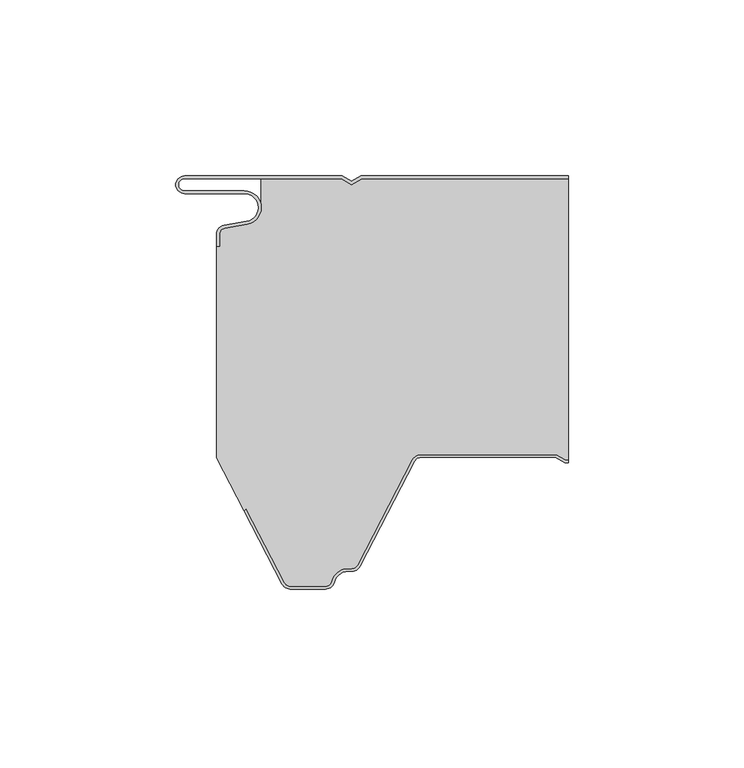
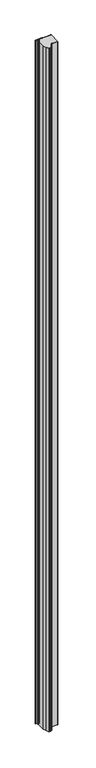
"""IFC4 building model written with IfcOpenShell, lengths in millimetres: plate geometry, ACH_Panel cubierta 5 grecas-PUR-PIR_P5G : ACH_Panel cubierta 5 grecas-PIR-P5G_80mm."""

from ifc_helpers import new_model, si_unit, frame, origin, place, context, project, spatial, polyline, circle_curve, source, transform, mapped, element, save
from ifc_brep_helpers import plane_surface, cylinder_surface, revolved_surface, advanced_brep


def plate_074d3782(model_context):
    return source(origin(), model_context, "Body", "AdvancedBrep", [
        advanced_brep(
        [(-50.0, -16.636349, 5000.0), (-50.0, -20.0, 5000.0), (-49.2, -20.0, 5000.0), (-49.2, -16.636349, 5000.0), (-47.7125667, -14.863695, 5000.0), (-41.266489, -13.7270771, 5000.0), (-42.1, -4.2, 5000.0), (-59.1, -4.2, 5000.0), (-59.1, -0.8, 5000.0), (-14.5143588, -0.8, 5000.0), (-11.6, -2.4826072, 5000.0), (-8.6856412, -0.8, 5000.0), (50.0, -0.8, 5000.0), (50.0, 0.0, 5000.0), (-8.9000007, 0.0, 5000.0), (-11.6, -1.5588466, 5000.0), (-14.2999993, 0.0, 5000.0), (-59.1, 0.0, 5000.0), (-59.1, -5.0, 5000.0), (-42.1, -5.0, 5000.0), (-41.4054075, -12.939231, 5000.0), (-47.851485, -14.075848, 5000.0), (-50.0, -16.636349, 0.0), (-47.8514853, -14.0758488, 0.0), (-41.4054075, -12.9392309, 0.0), (-42.1, -5.0, 0.0), (-59.1, -5.0, 0.0), (-59.1, 0.0, 0.0), (-14.2999993, 0.0, 0.0), (-11.6, -1.5588466, 0.0), (-8.9000007, 0.0, 0.0), (50.0, 0.0, 0.0), (50.0, -0.8, 0.0), (-8.6856412, -0.8, 0.0), (-11.6, -2.4826072, 0.0), (-14.5143588, -0.8, 0.0), (-59.1, -0.8, 0.0), (-59.1, -4.2, 0.0), (-42.1, -4.2, 0.0), (-41.266489, -13.7270773, 0.0), (-47.7125665, -14.8636942, 0.0), (-49.2, -16.636349, 0.0), (-49.2, -20.0, 0.0), (-50.0, -20.0, 0.0)],
        [
            (0, 1),
            (1, 2),
            (2, 3),
            (3, 4, circle_curve(frame((-47.4, -16.636349, 5000.0), z_axis=(0.0, 0.0, -1.0), x_axis=(1.0, 0.0, 0.0)), 1.8)),
            (4, 5),
            (5, 6, circle_curve(frame((-42.1, -9.0, 5000.0), z_axis=(0.0, 0.0, 1.0), x_axis=(1.0, 0.0, 0.0)), 4.8)),
            (6, 7),
            (7, 8, circle_curve(frame((-59.1, -2.5, 5000.0), z_axis=(0.0, 0.0, -1.0), x_axis=(1.0, 0.0, 0.0)), 1.7)),
            (8, 9),
            (9, 10),
            (10, 11),
            (11, 12),
            (12, 13),
            (13, 14),
            (14, 15),
            (15, 16),
            (16, 17),
            (17, 18, circle_curve(frame((-59.1, -2.5, 5000.0), z_axis=(0.0, 0.0, 1.0), x_axis=(1.0, 0.0, 0.0)), 2.5)),
            (18, 19),
            (19, 20, circle_curve(frame((-42.1, -9.0, 5000.0), z_axis=(0.0, 0.0, -1.0), x_axis=(1.0, 0.0, 0.0)), 4.0)),
            (20, 21),
            (21, 0, circle_curve(frame((-47.4, -16.636349, 5000.0), z_axis=(0.0, 0.0, 1.0), x_axis=(1.0, 0.0, 0.0)), 2.6)),
            (22, 23, circle_curve(frame((-47.4, -16.636349, 0.0), z_axis=(0.0, 0.0, -1.0), x_axis=(1.0, 0.0, 0.0)), 2.6)),
            (23, 24),
            (24, 25, circle_curve(frame((-42.1, -9.0, 0.0), z_axis=(0.0, 0.0, 1.0), x_axis=(1.0, 0.0, 0.0)), 4.0)),
            (25, 26),
            (26, 27, circle_curve(frame((-59.1, -2.5, 0.0), z_axis=(0.0, 0.0, -1.0), x_axis=(1.0, 0.0, 0.0)), 2.5)),
            (27, 28),
            (28, 29),
            (29, 30),
            (30, 31),
            (31, 32),
            (32, 33),
            (33, 34),
            (34, 35),
            (35, 36),
            (36, 37, circle_curve(frame((-59.1, -2.5, 0.0), z_axis=(0.0, 0.0, 1.0), x_axis=(1.0, 0.0, 0.0)), 1.7)),
            (37, 38),
            (38, 39, circle_curve(frame((-42.1, -9.0, 0.0), z_axis=(0.0, 0.0, -1.0), x_axis=(1.0, 0.0, 0.0)), 4.8)),
            (39, 40),
            (40, 41, circle_curve(frame((-47.4, -16.636349, 0.0), z_axis=(0.0, 0.0, 1.0), x_axis=(1.0, 0.0, 0.0)), 1.8)),
            (41, 42),
            (42, 43),
            (43, 22),
            (0, 22),
            (43, 1),
            (42, 2),
            (41, 3),
            (40, 4),
            (39, 5),
            (38, 6),
            (37, 7),
            (36, 8),
            (35, 9),
            (34, 10),
            (33, 11),
            (32, 12),
            (30, 14),
            (13, 31),
            (29, 15),
            (28, 16),
            (27, 17),
            (26, 18),
            (25, 19),
            (24, 20),
            (23, 21),
        ],
        [
            plane_surface(frame((-50.0, 0.0, 5000.0), z_axis=(0.0, 0.0, 1.0), x_axis=(0.0, 1.0, 0.0))),
            plane_surface(frame((-50.0, 0.0, 0.0), z_axis=(0.0, 0.0, -1.0), x_axis=(0.0, 1.0, 0.0))),
            plane_surface(frame((-50.0, -16.636349, 5000.0), z_axis=(-1.0, 0.0, 0.0), x_axis=(0.0, 0.0, -1.0))),
            plane_surface(frame((-50.0, -20.0, 5000.0), z_axis=(0.0, -1.0, 0.0), x_axis=(0.0, 0.0, -1.0))),
            plane_surface(frame((-49.2, -20.0, 5000.0), z_axis=(1.0, 0.0, 0.0), x_axis=(0.0, 0.0, -1.0))),
            revolved_surface(polyline([(-45.6, -16.636349, 0.0), (-45.6, -16.636349, 5000.0)]), (-47.4, -16.636349, 5000.0), (0.0, 0.0, -1.0)),
            plane_surface(frame((-47.7125665, -14.8636942, 5000.0), z_axis=(0.17364813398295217, -0.9848077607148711, 0.0), x_axis=(0.0, 0.0, -1.0))),
            cylinder_surface(frame((-42.1, -9.0, 5000.0), z_axis=(0.0, 0.0, 1.0), x_axis=(1.0, 0.0, 0.0)), 4.8),
            plane_surface(frame((-42.1, -4.2, 5000.0), z_axis=(0.0, 1.0, 0.0), x_axis=(0.0, 0.0, -1.0))),
            revolved_surface(polyline([(-57.4, -2.5, 0.0), (-57.4, -2.5, 5000.0)]), (-59.1, -2.5, 5000.0), (0.0, 0.0, -1.0)),
            plane_surface(frame((-59.1, -0.8, 5000.0), z_axis=(0.0, -1.0, 0.0), x_axis=(0.0, 0.0, -1.0))),
            plane_surface(frame((-14.5143588, -0.8, 5000.0), z_axis=(-0.5000003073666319, -0.8660252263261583, 0.0), x_axis=(0.0, 0.0, -1.0))),
            plane_surface(frame((-11.6, -2.4826072, 5000.0), z_axis=(0.5000003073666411, -0.866025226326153, 0.0), x_axis=(0.0, 0.0, -1.0))),
            plane_surface(frame((-8.6856412, -0.8, 5000.0), z_axis=(0.0, -1.0, 0.0), x_axis=(0.0, 0.0, -1.0))),
            plane_surface(frame((85.7000007, 0.0, 5000.0), z_axis=(0.0, 1.0, 0.0), x_axis=(0.0, 0.0, -1.0))),
            plane_surface(frame((-8.9000007, 0.0, 5000.0), z_axis=(-0.5000003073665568, 0.8660252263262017, 0.0), x_axis=(0.0, 0.0, -1.0))),
            plane_surface(frame((-11.6, -1.5588466, 5000.0), z_axis=(0.5000003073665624, 0.8660252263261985, 0.0), x_axis=(0.0, 0.0, -1.0))),
            plane_surface(frame((-14.2999993, 0.0, 5000.0), z_axis=(0.0, 1.0, 0.0), x_axis=(0.0, 0.0, -1.0))),
            cylinder_surface(frame((-59.1, -2.5, 5000.0), z_axis=(0.0, 0.0, 1.0), x_axis=(1.0, 0.0, 0.0)), 2.5),
            plane_surface(frame((-59.1, -5.0, 5000.0), z_axis=(0.0, -1.0, 0.0), x_axis=(0.0, 0.0, -1.0))),
            revolved_surface(polyline([(-38.1, -9.0, 0.0), (-38.1, -9.0, 5000.0)]), (-42.1, -9.0, 5000.0), (0.0, 0.0, -1.0)),
            plane_surface(frame((-41.4054075, -12.9392309, 5000.0), z_axis=(-0.17364813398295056, 0.9848077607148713, 0.0), x_axis=(0.0, 0.0, -1.0))),
            cylinder_surface(frame((-47.4, -16.636349, 5000.0), z_axis=(0.0, 0.0, 1.0), x_axis=(1.0, 0.0, 0.0)), 2.6),
            plane_surface(frame((50.0, 0.0, 5000.0), z_axis=(1.0, 0.0, 0.0), x_axis=(0.0, 0.0, -1.0))),
        ],
        [
            (0, [[1, 2, 3, 4, 5, 6, 7, 8, 9, 10, 11, 12, 13, 14, 15, 16, 17, 18, 19, 20, 21, 22]]),
            (1, [[23, 24, 25, 26, 27, 28, 29, 30, 31, 32, 33, 34, 35, 36, 37, 38, 39, 40, 41, 42, 43, 44]]),
            (2, [[-1, 45, -44, 46]]),
            (3, [[-2, -46, -43, 47]]),
            (4, [[-3, -47, -42, 48]]),
            (5, [[-4, -48, -41, 49]]),
            (6, [[-5, -49, -40, 50]]),
            (7, [[-6, -50, -39, 51]]),
            (8, [[-7, -51, -38, 52]]),
            (9, [[-8, -52, -37, 53]]),
            (10, [[-9, -53, -36, 54]]),
            (11, [[-10, -54, -35, 55]]),
            (12, [[-11, -55, -34, 56]]),
            (13, [[-56, -33, 57, -12]]),
            (14, [[58, -14, 59, -31]]),
            (15, [[-15, -58, -30, 60]]),
            (16, [[-16, -60, -29, 61]]),
            (17, [[-17, -61, -28, 62]]),
            (18, [[-18, -62, -27, 63]]),
            (19, [[-19, -63, -26, 64]]),
            (20, [[-20, -64, -25, 65]]),
            (21, [[-21, -65, -24, 66]]),
            (22, [[-22, -66, -23, -45]]),
            (23, [[-13, -57, -32, -59]]),
        ],
    ),
        advanced_brep(
        [(-30.6207387, -115.6314818, 0.0), (-41.5569015, -94.6340495, 0.0), (-42.1499858, -95.2271753, 0.0), (-50.0, -80.1551481, 0.0), (-50.0, -20.0, 0.0), (-49.2, -20.0, 0.0), (-49.2, -16.636349, 0.0), (-47.7125653, -14.8636948, 0.0), (-41.2664891, -13.7270773, 0.0), (-37.3182654, -8.5816526, 0.0), (-37.3182654, -0.8, 0.0), (-14.5143588, -0.8, 0.0), (-11.6, -2.4826072, 0.0), (-8.6856412, -0.8, 0.0), (50.0, -0.8, 0.0), (50.0, -80.7, 0.0), (49.2107961, -80.7, 0.0), (46.6127185, -79.2, 0.0), (8.090871, -79.2, 0.0), (5.6075115, -80.7065836, 0.0), (-9.9783733, -110.6314825, 0.0), (-11.574819, -111.6, 0.0), (-12.6272901, -111.6, 0.0), (-17.2841077, -115.2363636, 0.0), (-19.030414, -116.5999997, 0.0), (-29.024293, -116.5999997, 0.0), (-30.6207383, -115.6314813, 5000.0), (-29.024293, -116.5999997, 5000.0), (-19.030414, -116.5999997, 5000.0), (-17.2841077, -115.2363636, 5000.0), (-12.6272901, -111.6, 5000.0), (-11.574819, -111.6, 5000.0), (-9.9783737, -110.631482, 5000.0), (5.6075107, -80.7065835, 5000.0), (8.090871, -79.2, 5000.0), (46.6127185, -79.2, 5000.0), (49.2107961, -80.7, 5000.0), (50.0, -80.7, 5000.0), (50.0, -0.8, 5000.0), (-8.6856412, -0.8, 5000.0), (-11.6, -2.4826072, 5000.0), (-14.5143588, -0.8, 5000.0), (-37.3182654, -0.8, 5000.0), (-37.3182654, -8.5816526, 5000.0), (-41.2664891, -13.7270773, 5000.0), (-47.7125651, -14.863694, 5000.0), (-49.2, -16.636349, 5000.0), (-49.2, -20.0, 5000.0), (-50.0, -20.0, 5000.0), (-50.0, -80.1551481, 5000.0), (-42.1499858, -95.2271753, 5000.0), (-41.5569015, -94.6340495, 5000.0)],
        [
            (0, 1),
            (1, 2),
            (2, 3),
            (3, 4),
            (4, 5),
            (5, 6),
            (6, 7, circle_curve(frame((-47.4, -16.636349, 0.0), z_axis=(0.0, 0.0, -1.0), x_axis=(-1.0, 0.0, 0.0)), 1.8)),
            (7, 8),
            (8, 9, circle_curve(frame((-42.1, -9.0, 0.0), z_axis=(0.0, 0.0, 1.0), x_axis=(-1.0, 0.0, 0.0)), 4.8)),
            (9, 10),
            (10, 11),
            (11, 12),
            (12, 13),
            (13, 14),
            (14, 15),
            (15, 16),
            (16, 17),
            (17, 18),
            (18, 19, circle_curve(frame((8.090871, -82.0, 0.0), z_axis=(0.0, 0.0, 1.0), x_axis=(-1.0, 0.0, 0.0)), 2.8)),
            (19, 20),
            (20, 21, circle_curve(frame((-11.574819, -109.8, 0.0), z_axis=(0.0, 0.0, -1.0), x_axis=(-1.0, 0.0, 0.0)), 1.8)),
            (21, 22),
            (22, 23, circle_curve(frame((-12.6272901, -116.4, 0.0), z_axis=(0.0, 0.0, 1.0), x_axis=(-1.0, 0.0, 0.0)), 4.8)),
            (23, 24, circle_curve(frame((-19.030414, -114.8, 0.0), z_axis=(0.0, 0.0, -1.0), x_axis=(-1.0, 0.0, 0.0)), 1.7999997)),
            (24, 25),
            (25, 0, circle_curve(frame((-29.024293, -114.8, 0.0), z_axis=(0.0, 0.0, -1.0), x_axis=(-1.0, 0.0, 0.0)), 1.7999997)),
            (26, 27, circle_curve(frame((-29.024293, -114.8, 5000.0), z_axis=(0.0, 0.0, 1.0), x_axis=(-1.0, 0.0, 0.0)), 1.7999997)),
            (27, 28),
            (28, 29, circle_curve(frame((-19.030414, -114.8, 5000.0), z_axis=(0.0, 0.0, 1.0), x_axis=(-1.0, 0.0, 0.0)), 1.7999997)),
            (29, 30, circle_curve(frame((-12.6272901, -116.4, 5000.0), z_axis=(0.0, 0.0, -1.0), x_axis=(-1.0, 0.0, 0.0)), 4.8)),
            (30, 31),
            (31, 32, circle_curve(frame((-11.574819, -109.8, 5000.0), z_axis=(0.0, 0.0, 1.0), x_axis=(-1.0, 0.0, 0.0)), 1.8)),
            (32, 33),
            (33, 34, circle_curve(frame((8.090871, -82.0, 5000.0), z_axis=(0.0, 0.0, -1.0), x_axis=(-1.0, 0.0, 0.0)), 2.8)),
            (34, 35),
            (35, 36),
            (36, 37),
            (37, 38),
            (38, 39),
            (39, 40),
            (40, 41),
            (41, 42),
            (42, 43),
            (43, 44, circle_curve(frame((-42.1, -9.0, 5000.0), z_axis=(0.0, 0.0, -1.0), x_axis=(-1.0, 0.0, 0.0)), 4.8)),
            (44, 45),
            (45, 46, circle_curve(frame((-47.4, -16.636349, 5000.0), z_axis=(0.0, 0.0, 1.0), x_axis=(-1.0, 0.0, 0.0)), 1.8)),
            (46, 47),
            (47, 48),
            (48, 49),
            (49, 50),
            (50, 51),
            (51, 26),
            (0, 26),
            (51, 1),
            (50, 2),
            (49, 3),
            (48, 4),
            (47, 5),
            (46, 6),
            (45, 7),
            (44, 8),
            (43, 9),
            (42, 10),
            (41, 11),
            (40, 12),
            (39, 13),
            (38, 14),
            (36, 16),
            (15, 37),
            (35, 17),
            (34, 18),
            (33, 19),
            (32, 20),
            (31, 21),
            (30, 22),
            (29, 23),
            (28, 24),
            (27, 25),
        ],
        [
            plane_surface(frame((-50.0, 0.0, 0.0), z_axis=(0.0, 0.0, -1.0), x_axis=(0.0, 1.0, 0.0))),
            plane_surface(frame((-50.0, 0.0, 5000.0), z_axis=(0.0, 0.0, 1.0), x_axis=(0.0, 1.0, 0.0))),
            plane_surface(frame((-30.6207387, -115.6314818, 0.0), z_axis=(-0.8869140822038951, -0.4619344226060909, 0.0), x_axis=(0.0, 0.0, 1.0))),
            plane_surface(frame((-41.5569015, -94.6340495, 0.0), z_axis=(0.7071314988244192, -0.7070820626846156, 0.0), x_axis=(0.0, 0.0, 1.0))),
            plane_surface(frame((-42.1499858, -95.2271753, 0.0), z_axis=(-0.8869140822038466, -0.46193442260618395, 0.0), x_axis=(0.0, 0.0, 1.0))),
            plane_surface(frame((-50.0, -80.1551481, 0.0), z_axis=(-1.0, 0.0, 0.0), x_axis=(0.0, 0.0, 1.0))),
            plane_surface(frame((-50.0, -20.0, 0.0), z_axis=(0.0, 1.0, 0.0), x_axis=(0.0, 0.0, 1.0))),
            plane_surface(frame((-49.2, -20.0, 0.0), z_axis=(-1.0, 0.0, 0.0), x_axis=(0.0, 0.0, 1.0))),
            cylinder_surface(frame((-47.4, -16.636349, 0.0), z_axis=(0.0, 0.0, -1.0), x_axis=(-1.0, 0.0, 0.0)), 1.8),
            plane_surface(frame((-47.7125651, -14.863694, 0.0), z_axis=(-0.17364811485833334, 0.9848077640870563, 0.0), x_axis=(0.0, 0.0, 1.0))),
            revolved_surface(polyline([(-46.9, -9.0, 5000.0), (-46.9, -9.0, 0.0)]), (-42.1, -9.0, 0.0), (0.0, 0.0, 1.0)),
            plane_surface(frame((-37.3182654, -8.5816526, 0.0), z_axis=(-1.0, 0.0, 0.0), x_axis=(0.0, 0.0, 1.0))),
            plane_surface(frame((-37.3182654, -0.8, 0.0), z_axis=(0.0, 1.0, 0.0), x_axis=(0.0, 0.0, 1.0))),
            plane_surface(frame((-14.5143588, -0.8, 0.0), z_axis=(0.500000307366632, 0.8660252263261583, 0.0), x_axis=(0.0, 0.0, 1.0))),
            plane_surface(frame((-11.6, -2.4826072, 0.0), z_axis=(-0.500000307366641, 0.8660252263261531, 0.0), x_axis=(0.0, 0.0, 1.0))),
            plane_surface(frame((-8.6856412, -0.8, 0.0), z_axis=(0.0, 1.0, 0.0), x_axis=(0.0, 0.0, 1.0))),
            plane_surface(frame((81.5859248, -80.7, 0.0), z_axis=(0.0, -1.0, 0.0), x_axis=(0.0, 0.0, 1.0))),
            plane_surface(frame((49.2107961, -80.7, 0.0), z_axis=(-0.49999979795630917, -0.8660255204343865, 0.0), x_axis=(0.0, 0.0, 1.0))),
            plane_surface(frame((46.6127185, -79.2, 0.0), z_axis=(0.0, -1.0, 0.0), x_axis=(0.0, 0.0, 1.0))),
            revolved_surface(polyline([(5.290871, -82.0, 5000.0), (5.290871, -82.0, 0.0)]), (8.090871, -82.0, 0.0), (0.0, 0.0, 1.0)),
            plane_surface(frame((5.6075107, -80.7065835, 0.0), z_axis=(0.8869140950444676, -0.46193439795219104, 0.0), x_axis=(0.0, 0.0, 1.0))),
            cylinder_surface(frame((-11.574819, -109.8, 0.0), z_axis=(0.0, 0.0, -1.0), x_axis=(-1.0, 0.0, 0.0)), 1.8),
            plane_surface(frame((-11.574819, -111.6, 0.0), z_axis=(0.0, -1.0, 0.0), x_axis=(0.0, 0.0, 1.0))),
            revolved_surface(polyline([(-17.4272901, -116.4, 5000.0), (-17.4272901, -116.4, 0.0)]), (-12.6272901, -116.4, 0.0), (0.0, 0.0, 1.0)),
            cylinder_surface(frame((-19.030414, -114.8, 0.0), z_axis=(0.0, 0.0, -1.0), x_axis=(-1.0, 0.0, 0.0)), 1.7999997),
            plane_surface(frame((-19.030414, -116.5999997, 0.0), z_axis=(0.0, -1.0, 0.0), x_axis=(0.0, 0.0, 1.0))),
            cylinder_surface(frame((-29.024293, -114.8, 0.0), z_axis=(0.0, 0.0, -1.0), x_axis=(-1.0, 0.0, 0.0)), 1.7999997),
            plane_surface(frame((50.0, 0.0, 5000.0), z_axis=(1.0, 0.0, 0.0), x_axis=(0.0, 0.0, -1.0))),
        ],
        [
            (0, [[1, 2, 3, 4, 5, 6, 7, 8, 9, 10, 11, 12, 13, 14, 15, 16, 17, 18, 19, 20, 21, 22, 23, 24, 25, 26]]),
            (1, [[27, 28, 29, 30, 31, 32, 33, 34, 35, 36, 37, 38, 39, 40, 41, 42, 43, 44, 45, 46, 47, 48, 49, 50, 51, 52]]),
            (2, [[-1, 53, -52, 54]]),
            (3, [[-2, -54, -51, 55]]),
            (4, [[-3, -55, -50, 56]]),
            (5, [[-4, -56, -49, 57]]),
            (6, [[-5, -57, -48, 58]]),
            (7, [[-6, -58, -47, 59]]),
            (8, [[-7, -59, -46, 60]]),
            (9, [[-8, -60, -45, 61]]),
            (10, [[-9, -61, -44, 62]]),
            (11, [[-10, -62, -43, 63]]),
            (12, [[-11, -63, -42, 64]]),
            (13, [[-12, -64, -41, 65]]),
            (14, [[-13, -65, -40, 66]]),
            (15, [[-66, -39, 67, -14]]),
            (16, [[68, -16, 69, -37]]),
            (17, [[-17, -68, -36, 70]]),
            (18, [[-18, -70, -35, 71]]),
            (19, [[-19, -71, -34, 72]]),
            (20, [[-20, -72, -33, 73]]),
            (21, [[-21, -73, -32, 74]]),
            (22, [[-22, -74, -31, 75]]),
            (23, [[-23, -75, -30, 76]]),
            (24, [[-24, -76, -29, 77]]),
            (25, [[-25, -77, -28, 78]]),
            (26, [[-26, -78, -27, -53]]),
            (27, [[-15, -67, -38, -69]]),
        ],
    ),
        advanced_brep(
        [(49.2107962, -80.7, 5000.0), (46.6127186, -79.2, 5000.0), (8.090871, -79.2, 5000.0), (5.6075116, -80.7065836, 5000.0), (-9.9783733, -110.6314825, 5000.0), (-11.574819, -111.6, 5000.0), (-12.62729, -111.6, 5000.0), (-17.2841076, -115.2363636, 5000.0), (-19.030414, -116.6, 5000.0), (-29.024293, -116.6, 5000.0), (-30.6207383, -115.631482, 5000.0), (-41.5569015, -94.6340495, 5000.0), (-42.15, -95.227148, 5000.0), (-31.33027, -116.00103, 5000.0), (-29.024293, -117.4, 5000.0), (-19.030414, -117.4, 5000.0), (-16.5079711, -115.4303031, 5000.0), (-12.62729, -112.4, 5000.0), (-11.574819, -112.4, 5000.0), (-9.2688424, -111.0010295, 5000.0), (6.317042, -81.076131, 5000.0), (8.090871, -80.0, 5000.0), (46.3983593, -80.0, 5000.0), (48.9964369, -81.5, 5000.0), (50.0, -81.5, 5000.0), (50.0, -80.7, 5000.0), (48.9964369, -81.5, 0.0), (46.3983593, -80.0, 0.0), (8.090871, -80.0, 0.0), (6.3170428, -81.0761312, 0.0), (-9.268842, -111.00103, 0.0), (-11.574819, -112.4, 0.0), (-12.62729, -112.4, 0.0), (-16.5079713, -115.430303, 0.0), (-19.030414, -117.4, 0.0), (-29.024293, -117.4, 0.0), (-31.3302696, -116.0010295, 0.0), (-42.15, -95.227148, 0.0), (-41.5569015, -94.6340495, 0.0), (-30.6207387, -115.6314825, 0.0), (-29.024293, -116.6, 0.0), (-19.030414, -116.6, 0.0), (-17.2841074, -115.2363637, 0.0), (-12.62729, -111.6, 0.0), (-11.574819, -111.6, 0.0), (-9.9783737, -110.631482, 0.0), (5.6075107, -80.7065835, 0.0), (8.090871, -79.2, 0.0), (46.6127186, -79.2, 0.0), (49.2107962, -80.7, 0.0), (50.0, -80.7, 0.0), (50.0, -81.5, 0.0)],
        [
            (0, 1),
            (1, 2),
            (2, 3, circle_curve(frame((8.090871, -82.0, 5000.0), z_axis=(0.0, 0.0, 1.0), x_axis=(1.0, 0.0, 0.0)), 2.8)),
            (3, 4),
            (4, 5, circle_curve(frame((-11.574819, -109.8, 5000.0), z_axis=(0.0, 0.0, -1.0), x_axis=(1.0, 0.0, 0.0)), 1.8)),
            (5, 6),
            (6, 7, circle_curve(frame((-12.62729, -116.4, 5000.0), z_axis=(0.0, 0.0, 1.0), x_axis=(1.0, 0.0, 0.0)), 4.8)),
            (7, 8, circle_curve(frame((-19.030414, -114.8, 5000.0), z_axis=(0.0, 0.0, -1.0), x_axis=(1.0, 0.0, 0.0)), 1.8)),
            (8, 9),
            (9, 10, circle_curve(frame((-29.024293, -114.8, 5000.0), z_axis=(0.0, 0.0, -1.0), x_axis=(1.0, 0.0, 0.0)), 1.8)),
            (10, 11),
            (11, 12),
            (12, 13),
            (13, 14, circle_curve(frame((-29.024293, -114.8, 5000.0), z_axis=(0.0, 0.0, 1.0), x_axis=(1.0, 0.0, 0.0)), 2.6)),
            (14, 15),
            (15, 16, circle_curve(frame((-19.030414, -114.8, 5000.0), z_axis=(0.0, 0.0, 1.0), x_axis=(1.0, 0.0, 0.0)), 2.6)),
            (16, 17, circle_curve(frame((-12.62729, -116.4, 5000.0), z_axis=(0.0, 0.0, -1.0), x_axis=(1.0, 0.0, 0.0)), 4.0)),
            (17, 18),
            (18, 19, circle_curve(frame((-11.574819, -109.8, 5000.0), z_axis=(0.0, 0.0, 1.0), x_axis=(1.0, 0.0, 0.0)), 2.6)),
            (19, 20),
            (20, 21, circle_curve(frame((8.090871, -82.0, 5000.0), z_axis=(0.0, 0.0, -1.0), x_axis=(1.0, 0.0, 0.0)), 2.0)),
            (21, 22),
            (22, 23),
            (23, 24),
            (24, 25),
            (25, 0),
            (26, 27),
            (27, 28),
            (28, 29, circle_curve(frame((8.090871, -82.0, 0.0), z_axis=(0.0, 0.0, 1.0), x_axis=(1.0, 0.0, 0.0)), 2.0)),
            (29, 30),
            (30, 31, circle_curve(frame((-11.574819, -109.8, 0.0), z_axis=(0.0, 0.0, -1.0), x_axis=(1.0, 0.0, 0.0)), 2.6)),
            (31, 32),
            (32, 33, circle_curve(frame((-12.62729, -116.4, 0.0), z_axis=(0.0, 0.0, 1.0), x_axis=(1.0, 0.0, 0.0)), 4.0)),
            (33, 34, circle_curve(frame((-19.030414, -114.8, 0.0), z_axis=(0.0, 0.0, -1.0), x_axis=(1.0, 0.0, 0.0)), 2.6)),
            (34, 35),
            (35, 36, circle_curve(frame((-29.024293, -114.8, 0.0), z_axis=(0.0, 0.0, -1.0), x_axis=(1.0, 0.0, 0.0)), 2.6)),
            (36, 37),
            (37, 38),
            (38, 39),
            (39, 40, circle_curve(frame((-29.024293, -114.8, 0.0), z_axis=(0.0, 0.0, 1.0), x_axis=(1.0, 0.0, 0.0)), 1.8)),
            (40, 41),
            (41, 42, circle_curve(frame((-19.030414, -114.8, 0.0), z_axis=(0.0, 0.0, 1.0), x_axis=(1.0, 0.0, 0.0)), 1.8)),
            (42, 43, circle_curve(frame((-12.62729, -116.4, 0.0), z_axis=(0.0, 0.0, -1.0), x_axis=(1.0, 0.0, 0.0)), 4.8)),
            (43, 44),
            (44, 45, circle_curve(frame((-11.574819, -109.8, 0.0), z_axis=(0.0, 0.0, 1.0), x_axis=(1.0, 0.0, 0.0)), 1.8)),
            (45, 46),
            (46, 47, circle_curve(frame((8.090871, -82.0, 0.0), z_axis=(0.0, 0.0, -1.0), x_axis=(1.0, 0.0, 0.0)), 2.8)),
            (47, 48),
            (48, 49),
            (49, 50),
            (50, 51),
            (51, 26),
            (49, 0),
            (25, 50),
            (48, 1),
            (47, 2),
            (46, 3),
            (45, 4),
            (44, 5),
            (43, 6),
            (42, 7),
            (41, 8),
            (40, 9),
            (39, 10),
            (38, 11),
            (37, 12),
            (36, 13),
            (35, 14),
            (34, 15),
            (33, 16),
            (32, 17),
            (31, 18),
            (30, 19),
            (29, 20),
            (28, 21),
            (27, 22),
            (26, 23),
            (51, 24),
        ],
        [
            plane_surface(frame((-50.0, -80.0, 5000.0), z_axis=(0.0, 0.0, 1.0), x_axis=(0.0, 1.0, 0.0))),
            plane_surface(frame((-50.0, -80.0, 0.0), z_axis=(0.0, 0.0, -1.0), x_axis=(0.0, 1.0, 0.0))),
            plane_surface(frame((81.5859248, -80.7, 5000.0), z_axis=(0.0, 1.0, 0.0), x_axis=(0.0, 0.0, -1.0))),
            plane_surface(frame((49.2107962, -80.7, 5000.0), z_axis=(0.4999997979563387, 0.8660255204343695, 0.0), x_axis=(0.0, 0.0, -1.0))),
            plane_surface(frame((46.6127186, -79.2, 5000.0), z_axis=(0.0, 1.0, 0.0), x_axis=(0.0, 0.0, -1.0))),
            cylinder_surface(frame((8.090871, -82.0, 5000.0), z_axis=(0.0, 0.0, 1.0), x_axis=(1.0, 0.0, 0.0)), 2.8),
            plane_surface(frame((5.6075107, -80.7065835, 5000.0), z_axis=(-0.8869140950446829, 0.4619343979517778, 0.0), x_axis=(0.0, 0.0, -1.0))),
            revolved_surface(polyline([(-9.774818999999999, -109.8, 0.0), (-9.774818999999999, -109.8, 5000.0)]), (-11.574819, -109.8, 5000.0), (0.0, 0.0, -1.0)),
            plane_surface(frame((-11.574819, -111.6, 5000.0), z_axis=(0.0, 1.0, 0.0), x_axis=(0.0, 0.0, -1.0))),
            cylinder_surface(frame((-12.62729, -116.4, 5000.0), z_axis=(0.0, 0.0, 1.0), x_axis=(1.0, 0.0, 0.0)), 4.8),
            revolved_surface(polyline([(-17.230414, -114.8, 0.0), (-17.230414, -114.8, 5000.0)]), (-19.030414, -114.8, 5000.0), (0.0, 0.0, -1.0)),
            plane_surface(frame((-19.030414, -116.6, 5000.0), z_axis=(0.0, 1.0, 0.0), x_axis=(0.0, 0.0, -1.0))),
            revolved_surface(polyline([(-27.224293, -114.8, 0.0), (-27.224293, -114.8, 5000.0)]), (-29.024293, -114.8, 5000.0), (0.0, 0.0, -1.0)),
            plane_surface(frame((-30.6207387, -115.6314825, 5000.0), z_axis=(0.8869140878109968, 0.46193441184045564, 0.0), x_axis=(0.0, 0.0, -1.0))),
            plane_surface(frame((-41.5569015, -94.6340495, 5000.0), z_axis=(-0.7071067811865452, 0.7071067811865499, 0.0), x_axis=(0.0, 0.0, -1.0))),
            plane_surface(frame((-42.15, -95.227148, 5000.0), z_axis=(-0.8869140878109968, -0.46193441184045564, 0.0), x_axis=(0.0, 0.0, -1.0))),
            cylinder_surface(frame((-29.024293, -114.8, 5000.0), z_axis=(0.0, 0.0, 1.0), x_axis=(1.0, 0.0, 0.0)), 2.6),
            plane_surface(frame((-29.024293, -117.4, 5000.0), z_axis=(0.0, -1.0, 0.0), x_axis=(0.0, 0.0, -1.0))),
            cylinder_surface(frame((-19.030414, -114.8, 5000.0), z_axis=(0.0, 0.0, 1.0), x_axis=(1.0, 0.0, 0.0)), 2.6),
            revolved_surface(polyline([(-8.62729, -116.4, 0.0), (-8.62729, -116.4, 5000.0)]), (-12.62729, -116.4, 5000.0), (0.0, 0.0, -1.0)),
            plane_surface(frame((-12.62729, -112.4, 5000.0), z_axis=(0.0, -1.0, 0.0), x_axis=(0.0, 0.0, -1.0))),
            cylinder_surface(frame((-11.574819, -109.8, 5000.0), z_axis=(0.0, 0.0, 1.0), x_axis=(1.0, 0.0, 0.0)), 2.6),
            plane_surface(frame((-9.268842, -111.00103, 5000.0), z_axis=(0.8869140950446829, -0.4619343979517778, 0.0), x_axis=(0.0, 0.0, -1.0))),
            revolved_surface(polyline([(10.090871, -82.0, 0.0), (10.090871, -82.0, 5000.0)]), (8.090871, -82.0, 5000.0), (0.0, 0.0, -1.0)),
            plane_surface(frame((8.090871, -80.0, 5000.0), z_axis=(0.0, -1.0, 0.0), x_axis=(0.0, 0.0, -1.0))),
            plane_surface(frame((46.3983593, -80.0, 5000.0), z_axis=(-0.4999997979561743, -0.8660255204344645, 0.0), x_axis=(0.0, 0.0, -1.0))),
            plane_surface(frame((48.9964369, -81.5, 5000.0), z_axis=(0.0, -1.0, 0.0), x_axis=(0.0, 0.0, -1.0))),
            plane_surface(frame((50.0, 0.0, 5000.0), z_axis=(1.0, 0.0, 0.0), x_axis=(0.0, 0.0, -1.0))),
        ],
        [
            (0, [[1, 2, 3, 4, 5, 6, 7, 8, 9, 10, 11, 12, 13, 14, 15, 16, 17, 18, 19, 20, 21, 22, 23, 24, 25, 26]]),
            (1, [[27, 28, 29, 30, 31, 32, 33, 34, 35, 36, 37, 38, 39, 40, 41, 42, 43, 44, 45, 46, 47, 48, 49, 50, 51, 52]]),
            (2, [[53, -26, 54, -50]]),
            (3, [[-1, -53, -49, 55]]),
            (4, [[-2, -55, -48, 56]]),
            (5, [[-3, -56, -47, 57]]),
            (6, [[-4, -57, -46, 58]]),
            (7, [[-5, -58, -45, 59]]),
            (8, [[-6, -59, -44, 60]]),
            (9, [[-7, -60, -43, 61]]),
            (10, [[-8, -61, -42, 62]]),
            (11, [[-9, -62, -41, 63]]),
            (12, [[-10, -63, -40, 64]]),
            (13, [[-11, -64, -39, 65]]),
            (14, [[-12, -65, -38, 66]]),
            (15, [[-13, -66, -37, 67]]),
            (16, [[-14, -67, -36, 68]]),
            (17, [[-15, -68, -35, 69]]),
            (18, [[-16, -69, -34, 70]]),
            (19, [[-17, -70, -33, 71]]),
            (20, [[-18, -71, -32, 72]]),
            (21, [[-19, -72, -31, 73]]),
            (22, [[-20, -73, -30, 74]]),
            (23, [[-21, -74, -29, 75]]),
            (24, [[-22, -75, -28, 76]]),
            (25, [[-23, -76, -27, 77]]),
            (26, [[-77, -52, 78, -24]]),
            (27, [[-25, -78, -51, -54]]),
        ],
    ),
    ])


if __name__ == "__main__":
    model = new_model("IFC4")
    model_context = context("Model", 3, world=origin())
    ifc_project = project(units=[si_unit("LENGTHUNIT", "METRE", prefix="MILLI")], contexts=[model_context])
    site = spatial("IfcSite", under=ifc_project)
    building = spatial("IfcBuilding", under=site)
    placement = place(None, origin())
    plate_shape = plate_074d3782(model_context)
    element("IfcPlate", 1, ObjectType="ACH_Panel cubierta 5 grecas-PUR-PIR_P5G : ACH_Panel cubierta 5 grecas-PIR-P5G_80mm", at=placement, inside=building, context=model_context, shape_type="MappedRepresentation", body=[
        mapped(plate_shape, transform((0.0, 0.0, 0.0), x_axis=(1.0, 0.0, 0.0), y_axis=(0.0, 1.0, 0.0), z_axis=(0.0, 0.0, 1.0))),
    ])
    save(model, "model.ifc")
